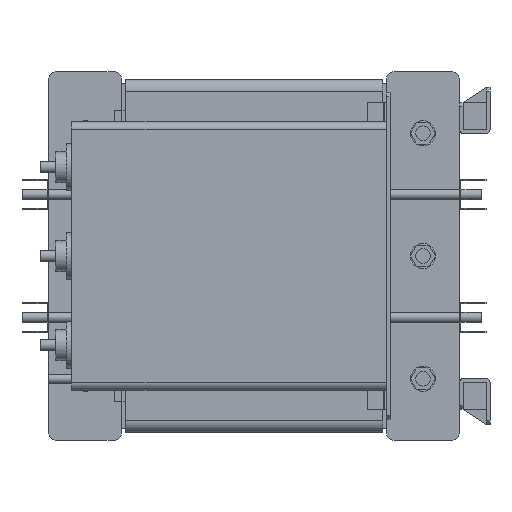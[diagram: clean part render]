
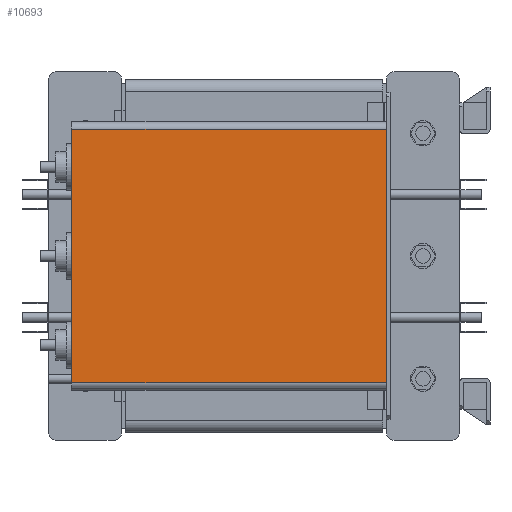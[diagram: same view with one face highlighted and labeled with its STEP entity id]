
A CAD part, left-side view. The second image highlights one B-rep face of the part: STEP entity #10693.
In plain terms, the highlighted planar face has unit normal (-1, 0, 0).
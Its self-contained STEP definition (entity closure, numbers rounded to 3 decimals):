
#1203=FACE_OUTER_BOUND('',#1911,.T.);
#1911=EDGE_LOOP('',(#9029,#9030,#9031,#9032));
#2894=LINE('',#17284,#4008);
#2966=LINE('',#17478,#4080);
#2967=LINE('',#17481,#4081);
#2968=LINE('',#17482,#4082);
#4008=VECTOR('',#14243,10.);
#4080=VECTOR('',#14425,10.);
#4081=VECTOR('',#14428,10.);
#4082=VECTOR('',#14429,10.);
#4984=VERTEX_POINT('',#17281);
#4985=VERTEX_POINT('',#17283);
#5052=VERTEX_POINT('',#17476);
#5053=VERTEX_POINT('',#17480);
#6331=EDGE_CURVE('',#4984,#4985,#2894,.T.);
#6429=EDGE_CURVE('',#4984,#5052,#2966,.T.);
#6430=EDGE_CURVE('',#5053,#5052,#2967,.T.);
#6431=EDGE_CURVE('',#4985,#5053,#2968,.T.);
#9029=ORIENTED_EDGE('',*,*,#6331,.F.);
#9030=ORIENTED_EDGE('',*,*,#6429,.T.);
#9031=ORIENTED_EDGE('',*,*,#6430,.F.);
#9032=ORIENTED_EDGE('',*,*,#6431,.F.);
#10077=PLANE('',#11695);
#10693=ADVANCED_FACE('',(#1203),#10077,.T.);
#11695=AXIS2_PLACEMENT_3D('',#17479,#14426,#14427);
#14243=DIRECTION('',(0.,0.,-1.));
#14425=DIRECTION('',(0.,1.,0.));
#14426=DIRECTION('center_axis',(-1.,0.,0.));
#14427=DIRECTION('ref_axis',(0.,0.,
1.));
#14428=DIRECTION('',(0.,0.,1.));
#14429=DIRECTION('',(0.,1.,0.));
#17281=CARTESIAN_POINT('',(-490.,-5.,165.));
#17283=CARTESIAN_POINT('',(-490.,-5.,-165.));
#17284=CARTESIAN_POINT('',(-490.,-5.,32.5));
#17476=CARTESIAN_POINT('',(-490.,405.,165.));
#17478=CARTESIAN_POINT('',(-490.,-5.,165.));
#17479=CARTESIAN_POINT('Origin',(-490.,-5.,-165.));
#17480=CARTESIAN_POINT('',(-490.,405.,-165.));
#17481=CARTESIAN_POINT('',(-490.,405.,-165.));
#17482=CARTESIAN_POINT('',(-490.,-5.,-165.));
